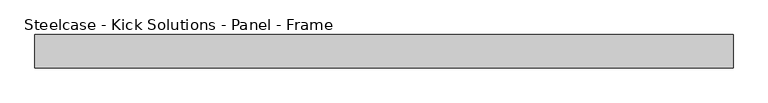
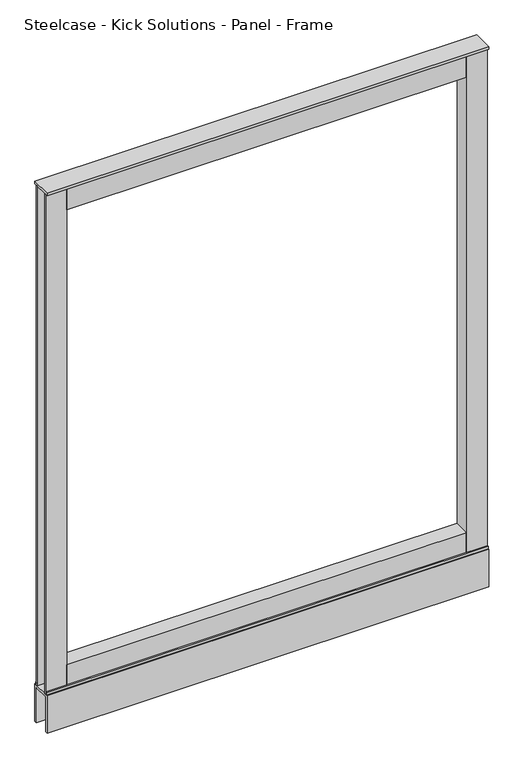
"""IFC4 building model written with IfcOpenShell, lengths in millimetres: furniture geometry, Steelcase - Kick Solutions - Panel - Frame : 54H x 42W."""

from ifc_helpers import new_model, si_unit, frame, origin, place, context, project, spatial, polyline, outline, extrude, source, transform, mapped, element, save


def steelcase_kick_solutions_panel_frame_ced17776(model_context):
    return source(origin(), model_context, "Body", "SweptSolid", [
        extrude(outline(polyline([(50.8006646, 6.3506854), (50.8006646, -31.7493123), (0.0, -31.7493123), (0.0, -29.2093123), (48.2606646, -29.2093123), (48.2606646, 3.8106854), (0.0, 3.8106854), (0.0, 6.3506854), (50.8006646, 6.3506854)])), frame((0.0, 0.0, 95.25), z_axis=(0.0, 0.0, 1.0), x_axis=(1.0, 0.0, 0.0)), (0.0, 0.0, 1.0), 1276.35),
        extrude(outline(polyline([(1016.0006661, 6.3506854), (1066.8, 6.3506854), (1066.8, 3.8106854), (1018.5393354, 3.8106854), (1018.5393354, -29.2093123), (1066.8, -29.2093123), (1066.8, -31.7493123), (1016.0006661, -31.7493123), (1016.0006661, 6.3506854)])), frame((0.0, 0.0, 95.25), z_axis=(0.0, 0.0, 1.0), x_axis=(1.0, 0.0, 0.0)), (0.0, 0.0, 1.0), 1276.35),
        extrude(outline(polyline([(6.3506854, 101.600003), (9.5256855, 101.600003), (9.5256855, 95.25), (8.409661, 95.25), (8.409661, 100.2902081), (6.3506854, 100.2902081), (6.3506854, 101.600003)])), frame((0.0, 0.0, 0.0), z_axis=(1.0, 0.0, 0.0), x_axis=(0.0, 1.0, 0.0)), (0.0, 0.0, 1.0), 1066.8),
        extrude(outline(polyline([(-34.9243138, 101.600003), (-31.7493123, 101.600003), (-31.7493123, 100.2902081), (-33.8479845, 100.2902081), (-33.8479845, 95.25), (-34.9243138, 95.25), (-34.9243138, 101.600003)])), frame((0.0, 0.0, 0.0), z_axis=(1.0, 0.0, 0.0), x_axis=(0.0, 1.0, 0.0)), (0.0, 0.0, 1.0), 1066.8),
        extrude(outline(polyline([(1016.0006661, -31.7493123), (50.8006646, -31.7493123), (50.8006646, 6.3506854), (1016.0006661, 6.3506854), (1016.0006661, -31.7493123)])), frame((0.0, 0.0, 1314.4500242), z_axis=(0.0, 0.0, 1.0), x_axis=(1.0, 0.0, 0.0)), (0.0, 0.0, 1.0), 57.1499758),
        extrude(outline(polyline([(1016.0006661, -31.7493123), (50.8006646, -31.7493123), (50.8006646, 6.3506854), (1016.0006661, 6.3506854), (1016.0006661, -31.7493123)])), frame((0.0, 0.0, 95.25), z_axis=(0.0, 0.0, 1.0), x_axis=(1.0, 0.0, 0.0)), (0.0, 0.0, 1.0), 57.15),
        extrude(outline(polyline([(1066.8, 12.7000004), (1066.8, -38.1000011), (0.0, -38.1000011), (0.0, 12.7000004), (1066.8, 12.7000004)])), frame((0.0, 0.0, 1371.6), z_axis=(0.0, 0.0, 1.0), x_axis=(1.0, 0.0, 0.0)), (0.0, 0.0, 1.0), 6.35),
        extrude(outline(polyline([(-38.1000011, 95.25), (12.7000004, 95.25), (12.7000004, 0.0), (6.3506854, 0.0), (6.3506854, 88.9), (-31.7493123, 88.9), (-31.7493123, 0.0), (-38.1000011, 0.0), (-38.1000011, 95.25)])), frame((0.0, 0.0, 0.0), z_axis=(1.0, 0.0, 0.0), x_axis=(0.0, 1.0, 0.0)), (0.0, 0.0, 1.0), 1066.8),
    ])


if __name__ == "__main__":
    model = new_model("IFC4")
    model_context = context("Model", 3, world=origin())
    ifc_project = project(units=[si_unit("LENGTHUNIT", "METRE", prefix="MILLI")], contexts=[model_context])
    site = spatial("IfcSite", under=ifc_project)
    building = spatial("IfcBuilding", under=site)
    placement = place(None, origin())
    steelcase_kick_solutions_panel_frame_shape = steelcase_kick_solutions_panel_frame_ced17776(model_context)
    element("IfcFurniture", 1, ObjectType="Steelcase - Kick Solutions - Panel - Frame : 54H x 42W", at=placement, inside=building, context=model_context, shape_type="MappedRepresentation", body=[
        mapped(steelcase_kick_solutions_panel_frame_shape, transform((0.0, 0.0, 0.0), x_axis=(1.0, 0.0, 0.0), y_axis=(0.0, 1.0, 0.0), z_axis=(0.0, 0.0, 1.0))),
    ])
    save(model, "model.ifc")
